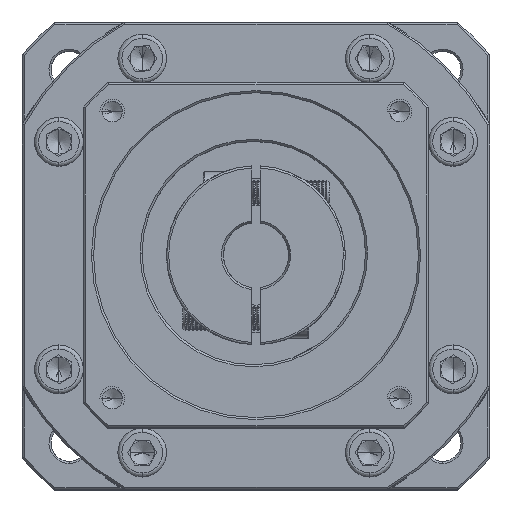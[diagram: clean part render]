
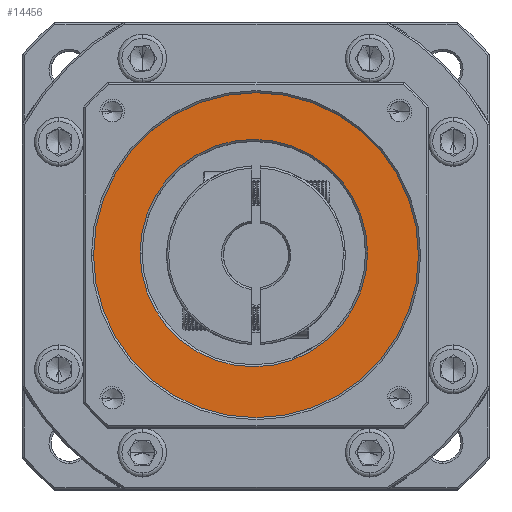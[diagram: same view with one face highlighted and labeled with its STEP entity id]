
A CAD part, top view. The second image highlights one B-rep face of the part: STEP entity #14456.
In plain terms, the highlighted planar face has unit normal (0, 0, 1).
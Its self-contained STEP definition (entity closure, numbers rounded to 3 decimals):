
#3545 = DIRECTION ( 'NONE',  ( 1., 0., 0. ) ) ;
#7729 = ORIENTED_EDGE ( 'NONE', *, *, #20108, .T. ) ;
#11364 = DIRECTION ( 'NONE',  ( 0., 0., 1. ) ) ;
#14456 = ADVANCED_FACE ( 'NONE', ( #100986, #87933 ), #47761, .T. ) ;
#15122 = EDGE_CURVE ( 'NONE', #67815, #106253, #20357, .T. ) ;
#16107 = CIRCLE ( 'NONE', #25675, 28. ) ;
#20063 = CARTESIAN_POINT ( 'NONE',  ( 57.945, -51.453, -19.608 ) ) ;
#20108 = EDGE_CURVE ( 'NONE', #50135, #33838, #110490, .T. ) ;
#20357 = CIRCLE ( 'NONE', #85885, 28. ) ;
#25675 = AXIS2_PLACEMENT_3D ( 'NONE', #52809, #118188, #62239 ) ;
#31040 = DIRECTION ( 'NONE',  ( 1., 0., 0. ) ) ;
#33838 = VERTEX_POINT ( 'NONE', #65859 ) ;
#34128 = CARTESIAN_POINT ( 'NONE',  ( 85.404, -50.919, -19.608 ) ) ;
#36022 = EDGE_CURVE ( 'NONE', #33838, #50135, #101506, .T. ) ;
#45388 = DIRECTION ( 'NONE',  ( 0., 0., 1. ) ) ;
#47761 = PLANE ( 'NONE',  #76380 ) ;
#50135 = VERTEX_POINT ( 'NONE', #51526 ) ;
#51526 = CARTESIAN_POINT ( 'NONE',  ( 17.945, -51.453, -19.608 ) ) ;
#52809 = CARTESIAN_POINT ( 'NONE',  ( 57.404, -50.919, -19.608 ) ) ;
#59443 = DIRECTION ( 'NONE',  ( 0., 0., -1. ) ) ;
#62239 = DIRECTION ( 'NONE',  ( 1., 0., 0. ) ) ;
#64368 = ORIENTED_EDGE ( 'NONE', *, *, #15122, .T. ) ;
#65859 = CARTESIAN_POINT ( 'NONE',  ( 97.945, -51.453, -19.608 ) ) ;
#67323 = CARTESIAN_POINT ( 'NONE',  ( 57.945, -51.453, -19.608 ) ) ;
#67505 = ORIENTED_EDGE ( 'NONE', *, *, #103693, .T. ) ;
#67815 = VERTEX_POINT ( 'NONE', #34128 ) ;
#70772 = EDGE_LOOP ( 'NONE', ( #64368, #67505 ) ) ;
#76380 = AXIS2_PLACEMENT_3D ( 'NONE', #20063, #85406, #31040 ) ;
#76712 = DIRECTION ( 'NONE',  ( 1., 0., 0. ) ) ;
#82484 = ORIENTED_EDGE ( 'NONE', *, *, #36022, .T. ) ;
#85406 = DIRECTION ( 'NONE',  ( 0., 0., 1. ) ) ;
#85885 = AXIS2_PLACEMENT_3D ( 'NONE', #115431, #59443, #3545 ) ;
#87933 = FACE_BOUND ( 'NONE', #70772, .T. ) ;
#91708 = AXIS2_PLACEMENT_3D ( 'NONE', #101320, #45388, #110682 ) ;
#100986 = FACE_OUTER_BOUND ( 'NONE', #117603, .T. ) ;
#101320 = CARTESIAN_POINT ( 'NONE',  ( 57.945, -51.453, -19.608 ) ) ;
#101506 = CIRCLE ( 'NONE', #91708, 40. ) ;
#103693 = EDGE_CURVE ( 'NONE', #106253, #67815, #16107, .T. ) ;
#106253 = VERTEX_POINT ( 'NONE', #109983 ) ;
#109950 = AXIS2_PLACEMENT_3D ( 'NONE', #67323, #11364, #76712 ) ;
#109983 = CARTESIAN_POINT ( 'NONE',  ( 29.404, -50.919, -19.608 ) ) ;
#110490 = CIRCLE ( 'NONE', #109950, 40. ) ;
#110682 = DIRECTION ( 'NONE',  ( 1., 0., 0. ) ) ;
#115431 = CARTESIAN_POINT ( 'NONE',  ( 57.404, -50.919, -19.608 ) ) ;
#117603 = EDGE_LOOP ( 'NONE', ( #82484, #7729 ) ) ;
#118188 = DIRECTION ( 'NONE',  ( 0., 0., -1. ) ) ;
